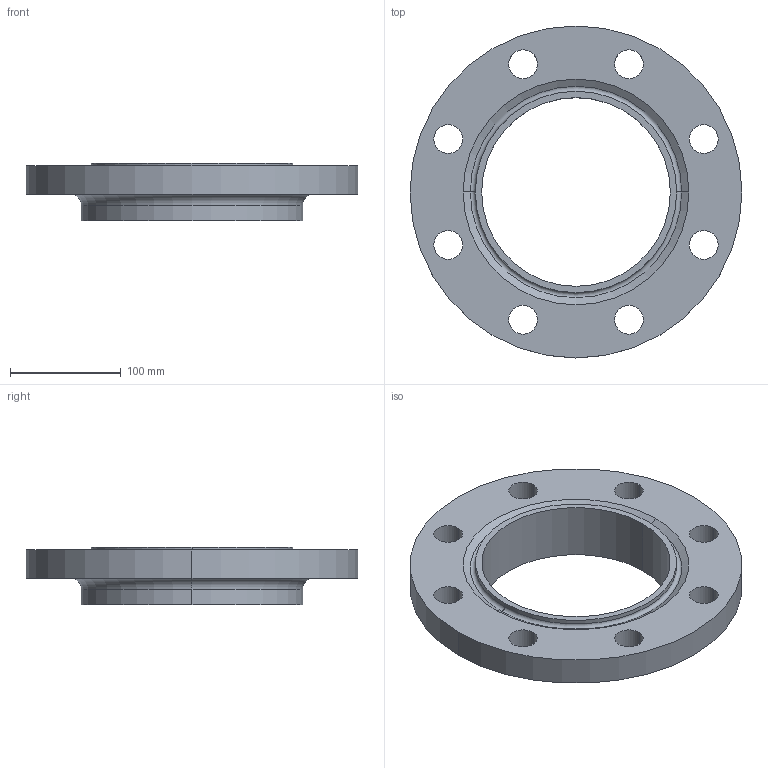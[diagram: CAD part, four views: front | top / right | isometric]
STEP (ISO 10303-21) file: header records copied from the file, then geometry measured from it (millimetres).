
FILE_DESCRIPTION (( 'STEP AP214' ), '1' );
FILE_NAME ('PN40 DN150 Type 12 - Type H Face.STEP', '2019-01-04T21:58:43', ( '' ), ( '' ), 'SwSTEP 2.0', 'SolidWorks 2019', '' );
FILE_SCHEMA (( 'AUTOMOTIVE_DESIGN' ));
Length unit declared in the file: millimetre
Products named in the file (1): PN40 DN150 Type 12 - Type H Face
Bounding box: 300 x 300 x 52 mm (x, y, z)
Volume: 1320921.8 mm3; surface area: 172237.5 mm2
Topology: 1 solids, 1 shells, 34 faces, 84 edges, 54 vertices
Faces by surface type: cylinder 24, torus 4, plane 4, cone 2
Entity records: 1108 total; most frequent: DIRECTION 212, CARTESIAN_POINT 173, ORIENTED_EDGE 168, AXIS2_PLACEMENT_3D 93, EDGE_CURVE 84, CIRCLE 58, EDGE_LOOP 54, VERTEX_POINT 54
